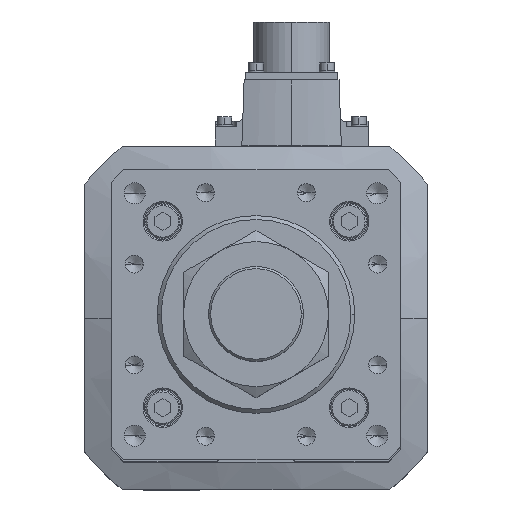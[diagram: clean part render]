
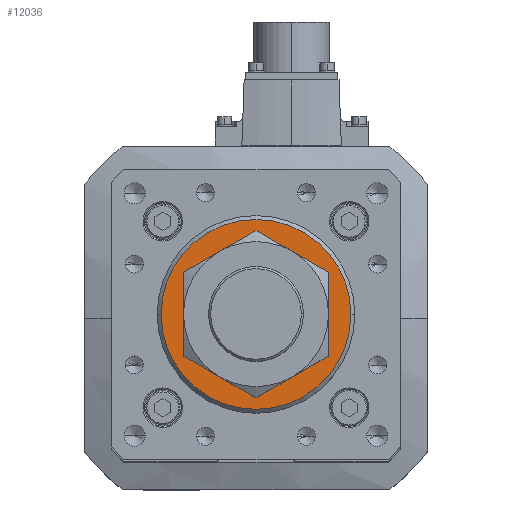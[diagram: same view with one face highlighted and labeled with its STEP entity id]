
A CAD part, top view. The second image highlights one B-rep face of the part: STEP entity #12036.
In plain terms, the highlighted planar face has unit normal (0, 0, 1).
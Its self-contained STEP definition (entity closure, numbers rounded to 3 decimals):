
#519 = ORIENTED_EDGE ( 'NONE', *, *, #14987, .T. ) ;
#544 = EDGE_CURVE ( 'NONE', #35073, #37558, #33346, .T. ) ;
#628 = VERTEX_POINT ( 'NONE', #7899 ) ;
#1375 = CIRCLE ( 'NONE', #25936, 23. ) ;
#1773 = DIRECTION ( 'NONE',  ( 0., 0., 1. ) ) ;
#1777 = EDGE_LOOP ( 'NONE', ( #519, #16772 ) ) ;
#4116 = DIRECTION ( 'NONE',  ( 0., 0., 1. ) ) ;
#4208 = CARTESIAN_POINT ( 'NONE',  ( 0., 0., 546. ) ) ;
#4479 = CARTESIAN_POINT ( 'NONE',  ( 23., 0., 546. ) ) ;
#5755 = CARTESIAN_POINT ( 'NONE',  ( 0., 0., 546. ) ) ;
#7899 = CARTESIAN_POINT ( 'NONE',  ( 36., 0., 546. ) ) ;
#7987 = CARTESIAN_POINT ( 'NONE',  ( -23., 0., 546. ) ) ;
#9090 = DIRECTION ( 'NONE',  ( 0., 0., -1. ) ) ;
#9390 = EDGE_LOOP ( 'NONE', ( #16289, #15560 ) ) ;
#9949 = DIRECTION ( 'NONE',  ( 1., 0., 0. ) ) ;
#11296 = EDGE_CURVE ( 'NONE', #628, #20277, #20119, .T. ) ;
#12036 = ADVANCED_FACE ( 'NONE', ( #29417, #20765 ), #36884, .T. ) ;
#14785 = DIRECTION ( 'NONE',  ( 1., 0., 0. ) ) ;
#14987 = EDGE_CURVE ( 'NONE', #20277, #628, #36740, .T. ) ;
#15560 = ORIENTED_EDGE ( 'NONE', *, *, #19668, .T. ) ;
#16069 = CARTESIAN_POINT ( 'NONE',  ( 0., 0., 546. ) ) ;
#16289 = ORIENTED_EDGE ( 'NONE', *, *, #544, .T. ) ;
#16772 = ORIENTED_EDGE ( 'NONE', *, *, #11296, .T. ) ;
#16991 = AXIS2_PLACEMENT_3D ( 'NONE', #16069, #4116, #24486 ) ;
#17086 = AXIS2_PLACEMENT_3D ( 'NONE', #27166, #21687, #33237 ) ;
#19342 = AXIS2_PLACEMENT_3D ( 'NONE', #22420, #1773, #22541 ) ;
#19668 = EDGE_CURVE ( 'NONE', #37558, #35073, #1375, .T. ) ;
#20119 = CIRCLE ( 'NONE', #17086, 36. ) ;
#20277 = VERTEX_POINT ( 'NONE', #26847 ) ;
#20765 = FACE_OUTER_BOUND ( 'NONE', #1777, .T. ) ;
#21687 = DIRECTION ( 'NONE',  ( 0., 0., 1. ) ) ;
#22420 = CARTESIAN_POINT ( 'NONE',  ( 0., 0., 546. ) ) ;
#22541 = DIRECTION ( 'NONE',  ( 1., 0., 0. ) ) ;
#24486 = DIRECTION ( 'NONE',  ( 1., 0., 0. ) ) ;
#25936 = AXIS2_PLACEMENT_3D ( 'NONE', #5755, #9090, #14785 ) ;
#26847 = CARTESIAN_POINT ( 'NONE',  ( -36., 0., 546. ) ) ;
#26890 = AXIS2_PLACEMENT_3D ( 'NONE', #4208, #36389, #9949 ) ;
#27166 = CARTESIAN_POINT ( 'NONE',  ( 0., 0., 546. ) ) ;
#29417 = FACE_BOUND ( 'NONE', #9390, .T. ) ;
#33237 = DIRECTION ( 'NONE',  ( 1., 0., 0. ) ) ;
#33346 = CIRCLE ( 'NONE', #26890, 23. ) ;
#35073 = VERTEX_POINT ( 'NONE', #4479 ) ;
#36389 = DIRECTION ( 'NONE',  ( 0., 0., -1. ) ) ;
#36740 = CIRCLE ( 'NONE', #16991, 36. ) ;
#36884 = PLANE ( 'NONE',  #19342 ) ;
#37558 = VERTEX_POINT ( 'NONE', #7987 ) ;
